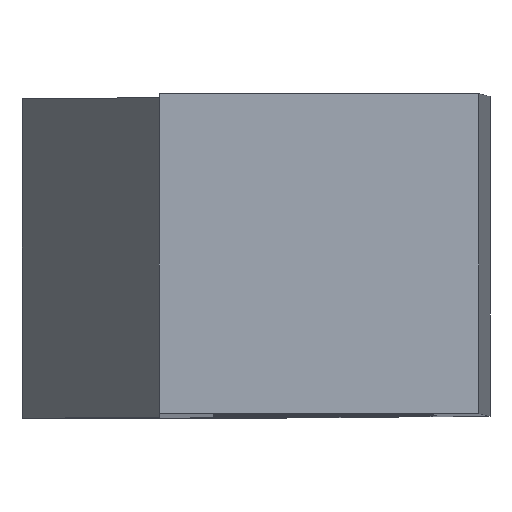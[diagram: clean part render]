
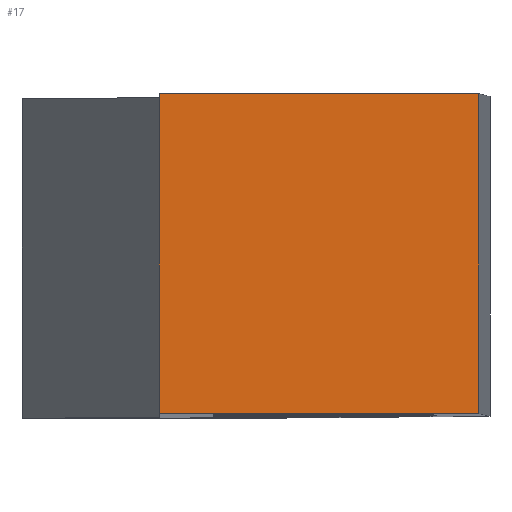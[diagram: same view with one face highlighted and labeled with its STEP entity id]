
A CAD part, top view. The second image highlights one B-rep face of the part: STEP entity #17.
In plain terms, the highlighted planar face has unit normal (0, 0, 1).
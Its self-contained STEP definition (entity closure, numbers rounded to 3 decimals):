
#17 = ADVANCED_FACE('',(#18),#32,.F.);
#18 = FACE_BOUND('',#19,.F.);
#19 = EDGE_LOOP('',(#20,#55,#83,#111));
#20 = ORIENTED_EDGE('',*,*,#21,.T.);
#21 = EDGE_CURVE('',#22,#24,#26,.T.);
#22 = VERTEX_POINT('',#23);
#23 = CARTESIAN_POINT('',(-3.997,-7.,-22.));
#24 = VERTEX_POINT('',#25);
#25 = CARTESIAN_POINT('',(-3.997,7.,-22.));
#26 = SURFACE_CURVE('',#27,(#31,#43),.PCURVE_S1.);
#27 = LINE('',#28,#29);
#28 = CARTESIAN_POINT('',(-3.997,-7.,-22.));
#29 = VECTOR('',#30,1.);
#30 = DIRECTION('',(-0.,1.,-0.));
#31 = PCURVE('',#32,#37);
#32 = PLANE('',#33);
#33 = AXIS2_PLACEMENT_3D('',#34,#35,#36);
#34 = CARTESIAN_POINT('',(-3.997,-7.,-22.));
#35 = DIRECTION('',(0.,0.,-1.));
#36 = DIRECTION('',(1.,0.,0.));
#37 = DEFINITIONAL_REPRESENTATION('',(#38),#42);
#38 = LINE('',#39,#40);
#39 = CARTESIAN_POINT('',(0.,0.));
#40 = VECTOR('',#41,1.);
#41 = DIRECTION('',(0.,-1.));
#42 = ( GEOMETRIC_REPRESENTATION_CONTEXT(2) 
PARAMETRIC_REPRESENTATION_CONTEXT() REPRESENTATION_CONTEXT('2D SPACE',''
  ) );
#43 = PCURVE('',#44,#49);
#44 = PLANE('',#45);
#45 = AXIS2_PLACEMENT_3D('',#46,#47,#48);
#46 = CARTESIAN_POINT('',(-3.997,-7.,-122.5));
#47 = DIRECTION('',(1.,0.,-0.));
#48 = DIRECTION('',(0.,0.,1.));
#49 = DEFINITIONAL_REPRESENTATION('',(#50),#54);
#50 = LINE('',#51,#52);
#51 = CARTESIAN_POINT('',(100.5,0.));
#52 = VECTOR('',#53,1.);
#53 = DIRECTION('',(0.,-1.));
#54 = ( GEOMETRIC_REPRESENTATION_CONTEXT(2) 
PARAMETRIC_REPRESENTATION_CONTEXT() REPRESENTATION_CONTEXT('2D SPACE',''
  ) );
#55 = ORIENTED_EDGE('',*,*,#56,.T.);
#56 = EDGE_CURVE('',#24,#57,#59,.T.);
#57 = VERTEX_POINT('',#58);
#58 = CARTESIAN_POINT('',(10.,7.,-22.));
#59 = SURFACE_CURVE('',#60,(#64,#71),.PCURVE_S1.);
#60 = LINE('',#61,#62);
#61 = CARTESIAN_POINT('',(-3.997,7.,-22.));
#62 = VECTOR('',#63,1.);
#63 = DIRECTION('',(1.,0.,0.));
#64 = PCURVE('',#32,#65);
#65 = DEFINITIONAL_REPRESENTATION('',(#66),#70);
#66 = LINE('',#67,#68);
#67 = CARTESIAN_POINT('',(0.,-14.));
#68 = VECTOR('',#69,1.);
#69 = DIRECTION('',(1.,0.));
#70 = ( GEOMETRIC_REPRESENTATION_CONTEXT(2) 
PARAMETRIC_REPRESENTATION_CONTEXT() REPRESENTATION_CONTEXT('2D SPACE',''
  ) );
#71 = PCURVE('',#72,#77);
#72 = PLANE('',#73);
#73 = AXIS2_PLACEMENT_3D('',#74,#75,#76);
#74 = CARTESIAN_POINT('',(1.576,7.,-84.157));
#75 = DIRECTION('',(0.,1.,0.));
#76 = DIRECTION('',(0.,-0.,1.));
#77 = DEFINITIONAL_REPRESENTATION('',(#78),#82);
#78 = LINE('',#79,#80);
#79 = CARTESIAN_POINT('',(62.157,-5.573));
#80 = VECTOR('',#81,1.);
#81 = DIRECTION('',(0.,1.));
#82 = ( GEOMETRIC_REPRESENTATION_CONTEXT(2) 
PARAMETRIC_REPRESENTATION_CONTEXT() REPRESENTATION_CONTEXT('2D SPACE',''
  ) );
#83 = ORIENTED_EDGE('',*,*,#84,.F.);
#84 = EDGE_CURVE('',#85,#57,#87,.T.);
#85 = VERTEX_POINT('',#86);
#86 = CARTESIAN_POINT('',(10.,-7.,-22.));
#87 = SURFACE_CURVE('',#88,(#92,#99),.PCURVE_S1.);
#88 = LINE('',#89,#90);
#89 = CARTESIAN_POINT('',(10.,-7.,-22.));
#90 = VECTOR('',#91,1.);
#91 = DIRECTION('',(-0.,1.,-0.));
#92 = PCURVE('',#32,#93);
#93 = DEFINITIONAL_REPRESENTATION('',(#94),#98);
#94 = LINE('',#95,#96);
#95 = CARTESIAN_POINT('',(13.997,0.));
#96 = VECTOR('',#97,1.);
#97 = DIRECTION('',(0.,-1.));
#98 = ( GEOMETRIC_REPRESENTATION_CONTEXT(2) 
PARAMETRIC_REPRESENTATION_CONTEXT() REPRESENTATION_CONTEXT('2D SPACE',''
  ) );
#99 = PCURVE('',#100,#105);
#100 = PLANE('',#101);
#101 = AXIS2_PLACEMENT_3D('',#102,#103,#104);
#102 = CARTESIAN_POINT('',(10.,-7.,-22.));
#103 = DIRECTION('',(-1.,-0.,-0.007));
#104 = DIRECTION('',(0.007,0.,-1.));
#105 = DEFINITIONAL_REPRESENTATION('',(#106),#110);
#106 = LINE('',#107,#108);
#107 = CARTESIAN_POINT('',(0.,0.));
#108 = VECTOR('',#109,1.);
#109 = DIRECTION('',(0.,-1.));
#110 = ( GEOMETRIC_REPRESENTATION_CONTEXT(2) 
PARAMETRIC_REPRESENTATION_CONTEXT() REPRESENTATION_CONTEXT('2D SPACE',''
  ) );
#111 = ORIENTED_EDGE('',*,*,#112,.F.);
#112 = EDGE_CURVE('',#22,#85,#113,.T.);
#113 = SURFACE_CURVE('',#114,(#118,#125),.PCURVE_S1.);
#114 = LINE('',#115,#116);
#115 = CARTESIAN_POINT('',(-3.997,-7.,-22.));
#116 = VECTOR('',#117,1.);
#117 = DIRECTION('',(1.,0.,0.));
#118 = PCURVE('',#32,#119);
#119 = DEFINITIONAL_REPRESENTATION('',(#120),#124);
#120 = LINE('',#121,#122);
#121 = CARTESIAN_POINT('',(0.,0.));
#122 = VECTOR('',#123,1.);
#123 = DIRECTION('',(1.,0.));
#124 = ( GEOMETRIC_REPRESENTATION_CONTEXT(2) 
PARAMETRIC_REPRESENTATION_CONTEXT() REPRESENTATION_CONTEXT('2D SPACE',''
  ) );
#125 = PCURVE('',#126,#131);
#126 = PLANE('',#127);
#127 = AXIS2_PLACEMENT_3D('',#128,#129,#130);
#128 = CARTESIAN_POINT('',(1.576,-7.,-84.157));
#129 = DIRECTION('',(0.,1.,0.));
#130 = DIRECTION('',(0.,-0.,1.));
#131 = DEFINITIONAL_REPRESENTATION('',(#132),#136);
#132 = LINE('',#133,#134);
#133 = CARTESIAN_POINT('',(62.157,-5.573));
#134 = VECTOR('',#135,1.);
#135 = DIRECTION('',(0.,1.));
#136 = ( GEOMETRIC_REPRESENTATION_CONTEXT(2) 
PARAMETRIC_REPRESENTATION_CONTEXT() REPRESENTATION_CONTEXT('2D SPACE',''
  ) );
